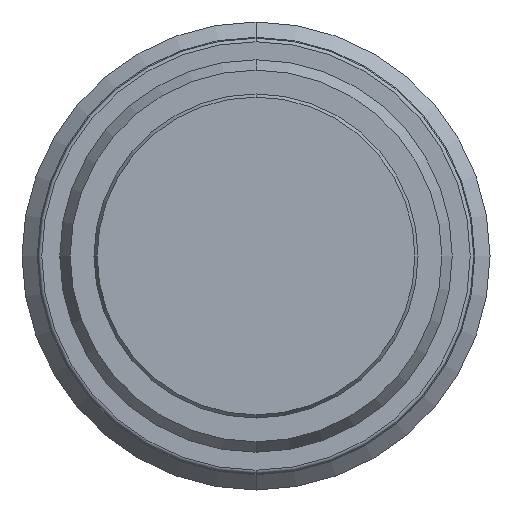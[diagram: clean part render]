
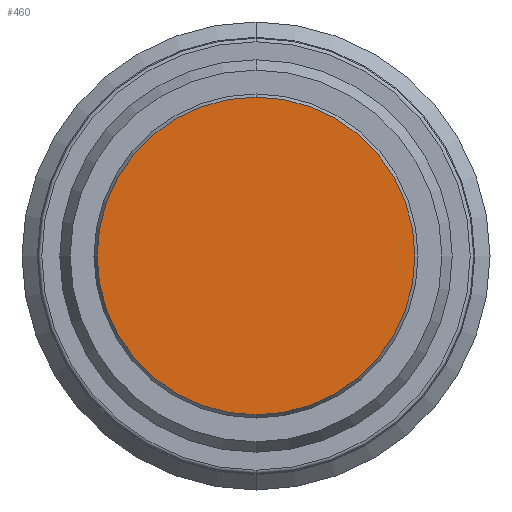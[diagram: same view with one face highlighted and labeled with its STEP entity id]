
A CAD part, front view. The second image highlights one B-rep face of the part: STEP entity #460.
In plain terms, the highlighted planar face has unit normal (0, -1, 0).
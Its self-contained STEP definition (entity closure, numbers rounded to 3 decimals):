
#247=PLANE('',#2955);
#460=ADVANCED_FACE('',(#676),#247,.T.);
#676=FACE_OUTER_BOUND('',#839,.T.);
#839=EDGE_LOOP('',(#1525,#1526));
#1525=ORIENTED_EDGE('',*,*,#2263,.F.);
#1526=ORIENTED_EDGE('',*,*,#2370,.F.);
#2005=VERTEX_POINT('',#4237);
#2006=VERTEX_POINT('',#4238);
#2263=EDGE_CURVE('',#2005,#2006,#2620,.T.);
#2370=EDGE_CURVE('',#2006,#2005,#2671,.T.);
#2620=CIRCLE('',#2859,8.827);
#2671=CIRCLE('',#2953,8.827);
#2859=AXIS2_PLACEMENT_3D('',#4236,#3332,#3333);
#2953=AXIS2_PLACEMENT_3D('',#4510,#3556,#3557);
#2955=AXIS2_PLACEMENT_3D('',#4512,#3560,#3561);
#3332=DIRECTION('',(0.,1.,0.));
#3333=DIRECTION('',(0.,0.,1.));
#3556=DIRECTION('',(0.,1.,0.));
#3557=DIRECTION('',(0.,0.,1.));
#3560=DIRECTION('',(0.,-1.,0.));
#3561=DIRECTION('',(0.,0.,-1.));
#4236=CARTESIAN_POINT('',(0.,-2.5,0.));
#4237=CARTESIAN_POINT('',(0.,-2.5,8.827));
#4238=CARTESIAN_POINT('',(0.,-2.5,-8.827));
#4510=CARTESIAN_POINT('',(0.,-2.5,0.));
#4512=CARTESIAN_POINT('',(0.,-2.5,0.));
